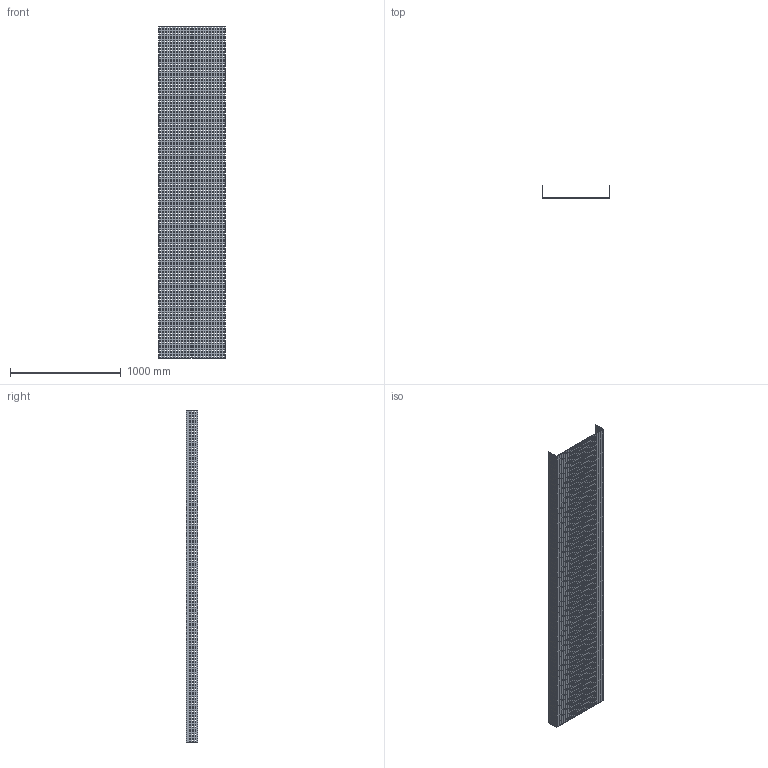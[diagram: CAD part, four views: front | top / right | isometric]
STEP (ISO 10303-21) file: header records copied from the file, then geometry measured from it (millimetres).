
FILE_DESCRIPTION (( 'STEP AP214' ), '1' );
FILE_NAME ('01B3D600.step', '2025-02-21T10:03:51', ( '' ), ( '' ), 'SwSTEP 2.0', 'SolidWorks 2023', '' );
FILE_SCHEMA (( 'AUTOMOTIVE_DESIGN' ));
Length unit declared in the file: millimetre
Products named in the file (1): 01B3D600
Bounding box: 604 x 104 x 3000 mm (x, y, z)
Volume: 7129500 mm3; surface area: 4584475 mm2
Topology: 1 solids, 1 shells, 8650 faces, 25944 edges, 17296 vertices
Faces by surface type: plane 8650
Entity records: 294071 total; most frequent: CARTESIAN_POINT 51891, ORIENTED_EDGE 51888, DIRECTION 43246, VECTOR 25944, LINE 25944, EDGE_CURVE 25944, VERTEX_POINT 17296, EDGE_LOOP 12970
